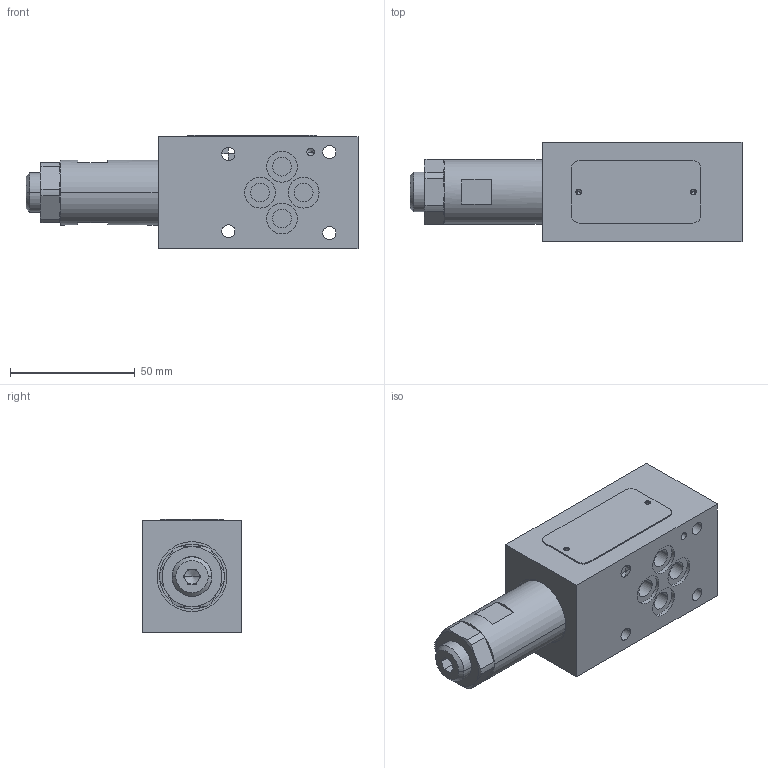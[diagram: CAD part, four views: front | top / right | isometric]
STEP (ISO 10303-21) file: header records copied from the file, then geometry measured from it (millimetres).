
FILE_DESCRIPTION((''),'2;1');
FILE_NAME('VSS3_062_MP06_10S_225899_ASM','2016-03-11T',('d.helta'),(''),'PRO/ENGINEER BY PARAMETRIC TECHNOLOGY CORPORATION, 2015110','PRO/ENGINEER BY PARAMETRIC TECHNOLOGY CORPORATION, 2015110','');
FILE_SCHEMA(('AUTOMOTIVE_DESIGN { 1 0 10303 214 1 1 1 1 }'));
Length unit declared in the file: millimetre
Products named in the file (4): IMP_ROE3_06_MA; VSS3_062_S_S; RA_LABEL_25X52; VSS3_062_MP06_10S_225899_ASM
Assembly tree (3 placements, depth 2):
  VSS3_062_MP06_10S_225899_ASM
    IMP_ROE3_06_MA
    VSS3_062_S_S
    RA_LABEL_25X52
Bounding box: 133.2 x 40 x 45.5 mm (x, y, z)
Volume: 159556.5 mm3; surface area: 35865.7 mm2
Topology: 3 solids, 7 shells, 189 faces, 751 edges, 633 vertices
Faces by surface type: cylinder 84, plane 61, cone 44
Entity records: 9853 total; most frequent: CARTESIAN_POINT 1471, DIRECTION 1377, ORIENTED_EDGE 816, PRESENTATION_STYLE_ASSIGNMENT 506, VECTOR 495, LINE 495, STYLED_ITEM 492, AXIS2_PLACEMENT_3D 441
